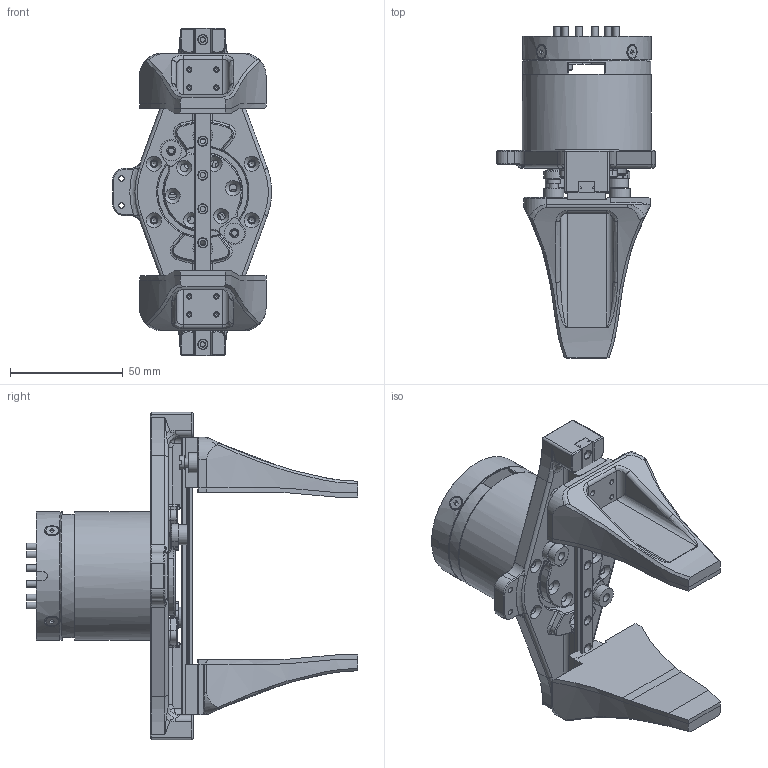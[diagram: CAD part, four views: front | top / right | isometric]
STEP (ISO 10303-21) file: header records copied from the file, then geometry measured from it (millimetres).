
FILE_DESCRIPTION (( 'STEP AP203' ), '1' );
FILE_NAME ('蛈標勤俋1202.STEP', '2024-12-09T08:35:45', ( '' ), ( '' ), 'SwSTEP 2.0', 'SolidWorks 2019', '' );
FILE_SCHEMA (( 'CONFIG_CONTROL_DESIGN' ));
Length unit declared in the file: millimetre
Products named in the file (14): 4310 熬厒萇儂Ver.B 3D20231203; M-JXB2-130100-D; M-JXB2-130099-B; F4.9M.P5 4.9.4芢薯粣創; hexagon socket countersunk head screws gb_GB_FASTENER_SCREWS_HSCHS M3X16-N; MGN7C; 一字塞打螺栓4.6.m3.4; MGN7.145; M3.8_GB_FASTENER_SCREWS_HSCHS M3X16-N; 蛈標勤俋1202; M-JXB2-130104-E; 4310 熬厒萇儂Ver.B 3D; M-JXB2-130103-D; M-JXB2-130102-D
Assembly tree (27 placements, depth 3):
  蛈標勤俋1202
    4310 熬厒萇儂Ver.B 3D20231203
      4310 熬厒萇儂Ver.B 3D
    MGN7.145
    MGN7C  x2
    M-JXB2-130099-B
    M-JXB2-130100-D
    M-JXB2-130102-D  x2
    F4.9M.P5 4.9.4芢薯粣創  x4
    M-JXB2-130104-E
    M-JXB2-130103-D
    一字塞打螺栓4.6.m3.4  x2
    M3.8_GB_FASTENER_SCREWS_HSCHS M3X16-N  x6
    hexagon socket countersunk head screws gb_GB_FASTENER_SCREWS_HSCHS M3X16-N  x4
Bounding box: 70.43 x 147 x 145 mm (x, y, z)
Volume: 223832.9 mm3; surface area: 90746.7 mm2
Topology: 28 solids, 28 shells, 1358 faces, 3270 edges, 1966 vertices
Faces by surface type: plane 553, cylinder 408, cone 222, bspline 122, torus 53
Full cylindrical faces by diameter (mm): 1.6 x8, 2 x4, 2.2 x2, 2.4 x18, 2.5 x23, 2.9 x4, 3 x16, 3.4 x22, 4 x13, 4.2 x10, 5.54 x10, 6 x2, 6.72 x2, 9 x4, 24 x1, 35 x1, 35.5 x1, 40 x1, 57 x3, 57.2 x1
Entity records: 40631 total; most frequent: CARTESIAN_POINT 15152, DIRECTION 4894, ORIENTED_EDGE 4678, EDGE_CURVE 2339, AXIS2_PLACEMENT_3D 1915, VERTEX_POINT 1522, EDGE_LOOP 1403, FACE_OUTER_BOUND 1187
